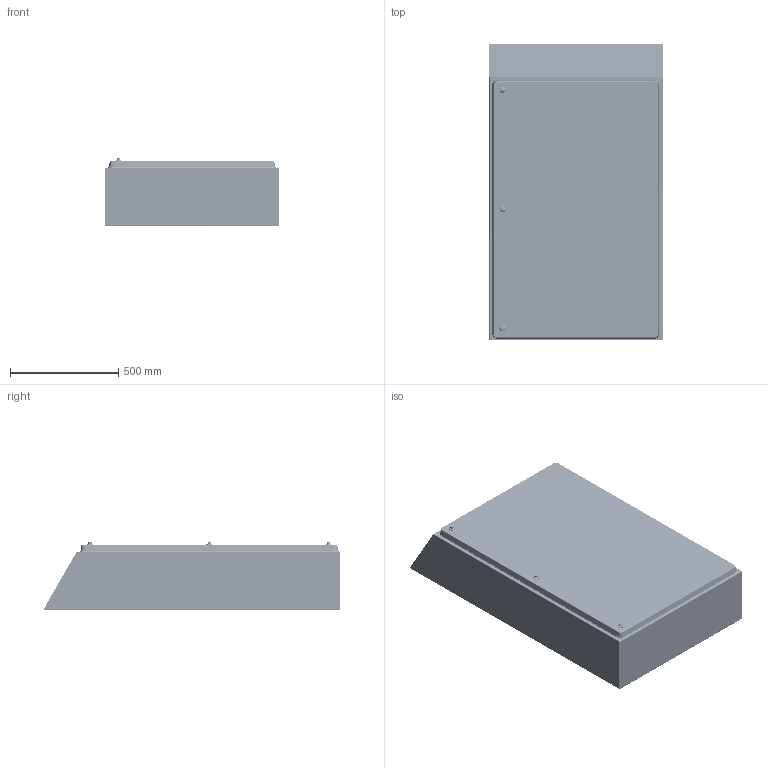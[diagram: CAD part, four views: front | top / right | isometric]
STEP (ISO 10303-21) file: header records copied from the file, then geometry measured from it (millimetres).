
FILE_DESCRIPTION (( 'STEP AP214' ), '1' );
FILE_NAME ('IP-H1208030_step.stp', '2025-01-07T05:58:57', ( '' ), ( '' ), 'SwSTEP 2.0', 'SolidWorks 2023', '' );
FILE_SCHEMA (( 'AUTOMOTIVE_DESIGN' ));
Length unit declared in the file: millimetre
Products named in the file (1): IP-H1208030_step
Bounding box: 800 x 1370.69 x 314.48 mm (x, y, z)
Surface area: 9140363 mm2 (no closed solid volume)
Topology: 0 solids, 117 shells, 6819 faces, 16308 edges, 9684 vertices
Faces by surface type: cylinder 2090, plane 1683, torus 1618, bspline 1056, cone 312, sphere 60
Entity records: 279277 total; most frequent: CARTESIAN_POINT 127015, ORIENTED_EDGE 32424, DIRECTION 30834, EDGE_CURVE 16218, AXIS2_PLACEMENT_3D 12489, VERTEX_POINT 9678, EDGE_LOOP 7192, ADVANCED_FACE 6819
